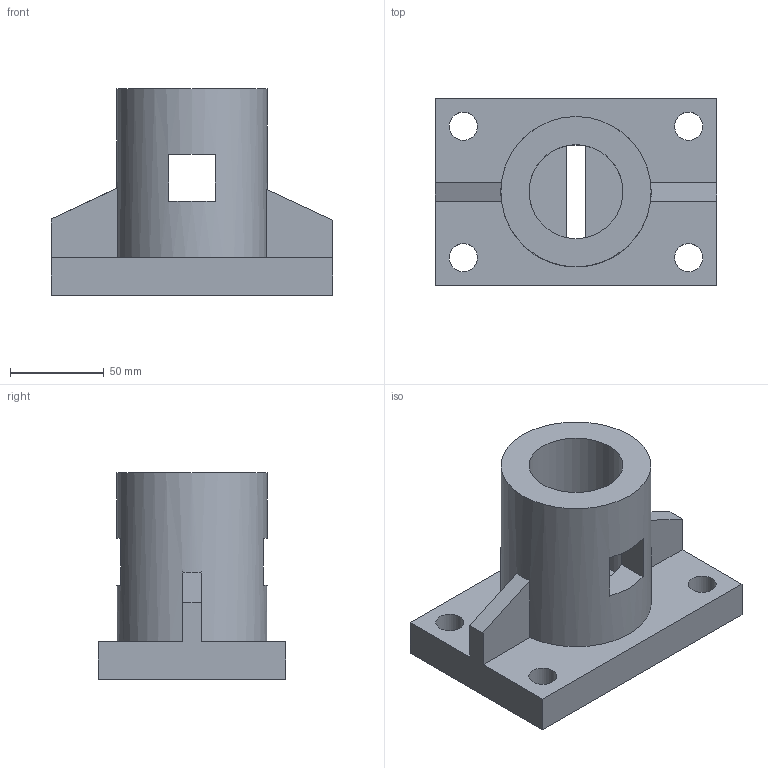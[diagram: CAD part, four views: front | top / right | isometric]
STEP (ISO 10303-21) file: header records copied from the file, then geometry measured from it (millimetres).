
FILE_DESCRIPTION(('TFLEX Exchange Step'),'2;1');
FILE_NAME('X2\041A043E043F04430441\X0\ вар 13.stp', '2025-06-24T11:16:28+03:00',('alymo'),('Unknown organisation'),'TFLEX Exchange 2023.0','T-FLEX CAD','Unknown authorisation');
FILE_SCHEMA( ('AUTOMOTIVE_DESIGN { 1 0 10303 214 1 1 1 1 }') );
Length unit declared in the file: millimetre
Products named in the file (1): Nodes
Bounding box: 150 x 100 x 110 mm (x, y, z)
Volume: 567019.8 mm3; surface area: 84467.6 mm2
Topology: 1 solids, 1 shells, 32 faces, 100 edges, 70 vertices
Faces by surface type: plane 26, cylinder 6
Full cylindrical faces by diameter (mm): 15 x4, 50 x1, 80 x1
Entity records: 1194 total; most frequent: DIRECTION 204, CARTESIAN_POINT 203, ORIENTED_EDGE 200, EDGE_CURVE 100, AXIS2_PLACEMENT_3D 71, VERTEX_POINT 70, VECTOR 62, LINE 62
